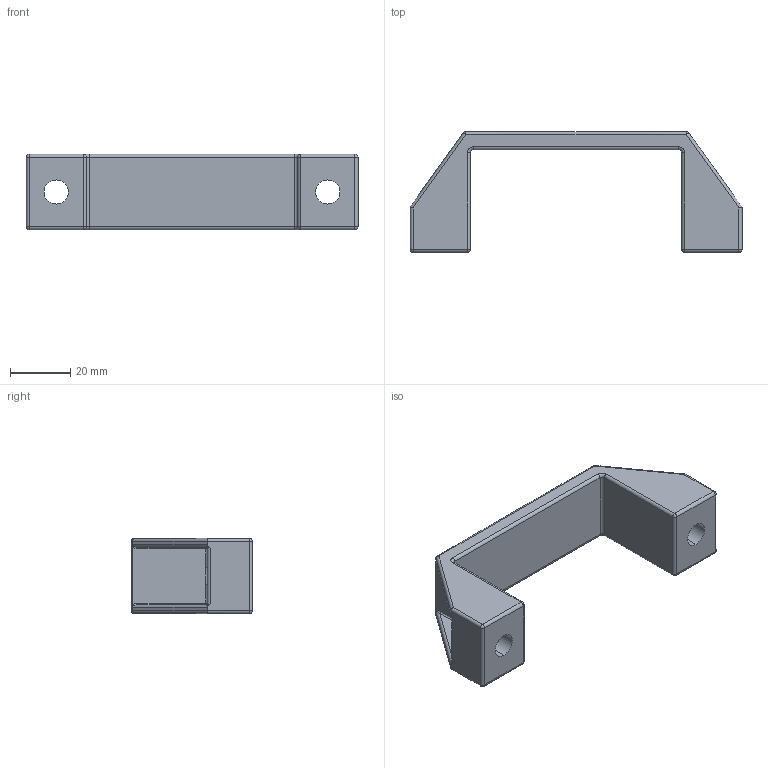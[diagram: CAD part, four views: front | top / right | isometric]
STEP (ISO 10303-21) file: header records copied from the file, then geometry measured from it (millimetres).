
FILE_DESCRIPTION (( 'STEP AP203' ), '1' );
FILE_NAME ('3009.STEP', '2016-04-16T15:43:16', ( '' ), ( '' ), 'SwSTEP 2.0', 'SolidWorks 2014', '' );
FILE_SCHEMA (( 'CONFIG_CONTROL_DESIGN' ));
Length unit declared in the file: millimetre
Products named in the file (1): 3009
Bounding box: 110 x 40 x 25 mm (x, y, z)
Volume: 26731.3 mm3; surface area: 13516.8 mm2
Topology: 1 solids, 1 shells, 124 faces, 294 edges, 156 vertices
Faces by surface type: cylinder 51, plane 24, bspline 17, torus 16, sphere 16
Entity records: 4028 total; most frequent: CARTESIAN_POINT 1330, DIRECTION 560, ORIENTED_EDGE 556, EDGE_CURVE 278, AXIS2_PLACEMENT_3D 229, VERTEX_POINT 156, EDGE_LOOP 128, FACE_OUTER_BOUND 124
